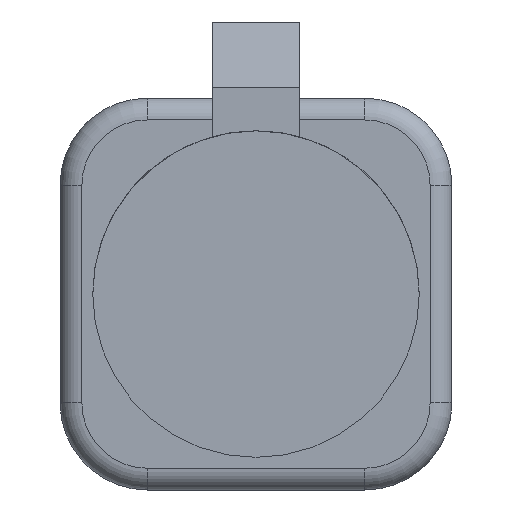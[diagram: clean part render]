
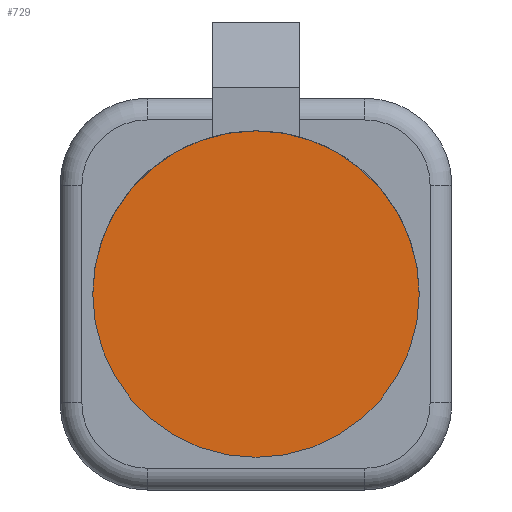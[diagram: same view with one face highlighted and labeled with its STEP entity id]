
A CAD part, front view. The second image highlights one B-rep face of the part: STEP entity #729.
In plain terms, the highlighted planar face has unit normal (0, -1, 0).
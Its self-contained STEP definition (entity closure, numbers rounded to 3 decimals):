
#126=CARTESIAN_POINT('',(0.,0.,0.));
#127=DIRECTION('',(0.,1.,0.));
#128=DIRECTION('',(-1.,0.,0.));
#129=AXIS2_PLACEMENT_3D('',#126,#127,#128);
#131=CARTESIAN_POINT('',(0.,0.,0.));
#132=DIRECTION('',(0.,1.,0.));
#133=DIRECTION('',(1.,0.,0.));
#134=AXIS2_PLACEMENT_3D('',#131,#132,#133);
#590=CARTESIAN_POINT('',(-3.75,0.,0.));
#591=CARTESIAN_POINT('',(3.75,0.,0.));
#592=VERTEX_POINT('',#590);
#593=VERTEX_POINT('',#591);
#718=CARTESIAN_POINT('',(0.,0.,0.));
#719=DIRECTION('',(0.,1.,0.));
#720=DIRECTION('',(-1.,0.,0.));
#721=AXIS2_PLACEMENT_3D('',#718,#719,#720);
#722=PLANE('',#721);
#724=ORIENTED_EDGE('',*,*,#723,.T.);
#726=ORIENTED_EDGE('',*,*,#725,.T.);
#727=EDGE_LOOP('',(#724,#726));
#728=FACE_OUTER_BOUND('',#727,.F.);
#729=ADVANCED_FACE('',(#728),#722,.F.);
#130=CIRCLE('',#129,3.75);
#135=CIRCLE('',#134,3.75);
#723=EDGE_CURVE('',#592,#593,#130,.T.);
#725=EDGE_CURVE('',#593,#592,#135,.T.);
